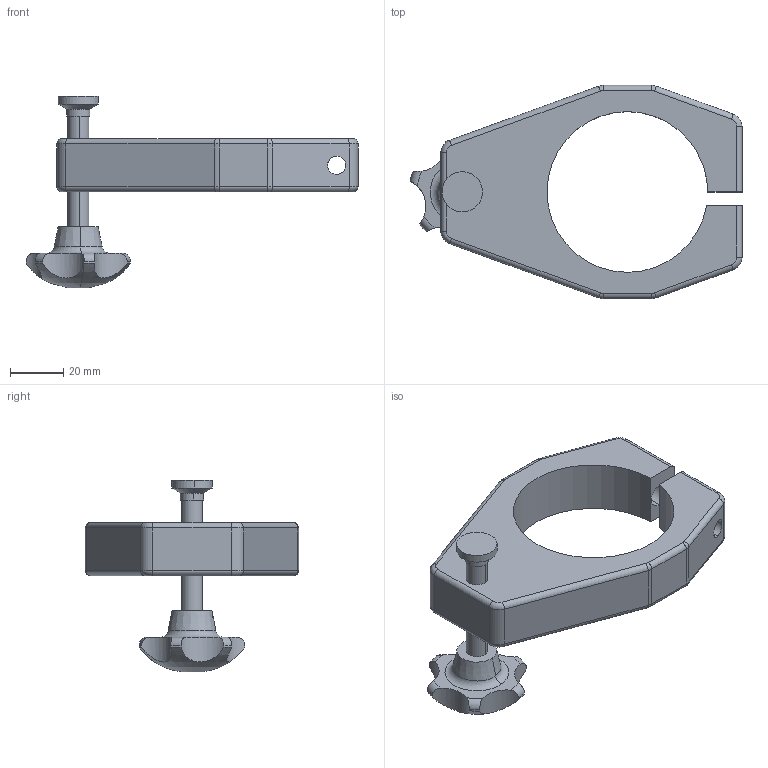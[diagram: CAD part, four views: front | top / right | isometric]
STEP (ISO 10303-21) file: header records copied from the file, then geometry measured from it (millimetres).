
FILE_DESCRIPTION (( 'STEP AP203' ), '1' );
FILE_NAME ('Height adjustment bracket 041J004339.STEP', '2009-10-15T06:16:26', ( 'HP' ), ( '' ), 'SwSTEP 2.0', 'SolidWorks 2008', '' );
FILE_SCHEMA (( 'CONFIG_CONTROL_DESIGN' ));
Length unit declared in the file: millimetre
Products named in the file (3): Höjdjustering 400055; Höjdjusterings-skruv 400055; Height adjustment bracket 041J004339
Assembly tree (2 placements, depth 2):
  Height adjustment bracket 041J004339
    Höjdjusterings-skruv 400055
    Höjdjustering 400055
Bounding box: 124.57 x 80 x 72 mm (x, y, z)
Volume: 97267.8 mm3; surface area: 25149.6 mm2
Topology: 2 solids, 2 shells, 112 faces, 274 edges, 167 vertices
Faces by surface type: cylinder 55, torus 27, plane 20, cone 10
Entity records: 3969 total; most frequent: CARTESIAN_POINT 973, DIRECTION 619, ORIENTED_EDGE 544, EDGE_CURVE 272, AXIS2_PLACEMENT_3D 257, VERTEX_POINT 167, CIRCLE 140, EDGE_LOOP 121
